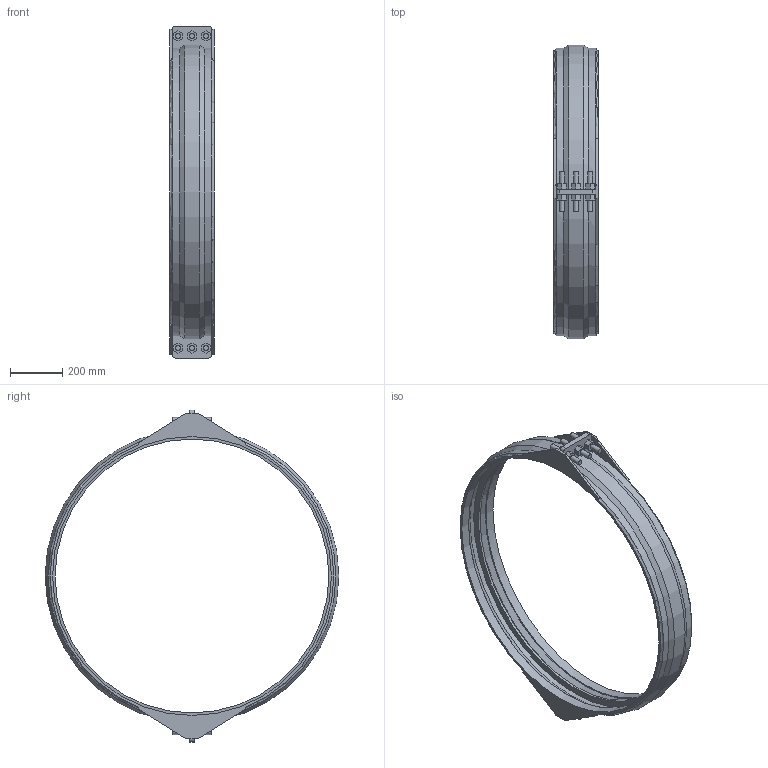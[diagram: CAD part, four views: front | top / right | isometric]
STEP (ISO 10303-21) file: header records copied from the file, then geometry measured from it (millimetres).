
FILE_DESCRIPTION(/* description */ ('VIC SS RESTRAINED COUPLING STYLE 234S (FLEX) (BRS)','CAx-IF Rec.Pracs.---Representation and Presentation of Product Manufacturing Information (PMI)---4.0---2014-10-13'),/* implementation_level */ '2;1');
FILE_NAME(/* name */ 'C:\Users\kkamble\AppData\Roaming\Autodesk\ApplicationPlugins\Back Up\Victaulic_VBSP_Coupling Flexible Restrained_Style 234S (BRS)\Victaulic_VBSP_Coupling Flexible Restrained_Style 234S (BRS)_200psi_42 (1050).stp',/* time_stamp */ '2020-09-22T18:42:03+05:00',/* author */ ('Vjadhav'),/* organization */ ('Victaulic'),/* preprocessor_version */ 'ST-DEVELOPER v17.2',/* originating_system */ 'Autodesk Inventor 2019',/* authorisation */ '');
FILE_SCHEMA (('AP242_MANAGED_MODEL_BASED_3D_ENGINEERING_MIM_LF { 1 0 10303 442 1 1 4 }'));
Length unit declared in the file: inch
Products named in the file (1): Style_234S_Type_2_200psi-42.0
Bounding box: 168.4 x 1123.09 x 1270 mm (x, y, z)
Volume: 10619220.2 mm3; surface area: 1706695.7 mm2
Topology: 1 solids, 1 shells, 191 faces, 477 edges, 316 vertices
Faces by surface type: plane 136, cylinder 43, torus 6, cone 6
Full cylindrical faces by diameter (mm): 19.05 x12, 1047.75 x1, 1066.8 x2, 1097.687 x2
Entity records: 6162 total; most frequent: CARTESIAN_POINT 1218, DIRECTION 965, ORIENTED_EDGE 954, EDGE_CURVE 477, LINE 335, VECTOR 335, VERTEX_POINT 316, AXIS2_PLACEMENT_3D 315
